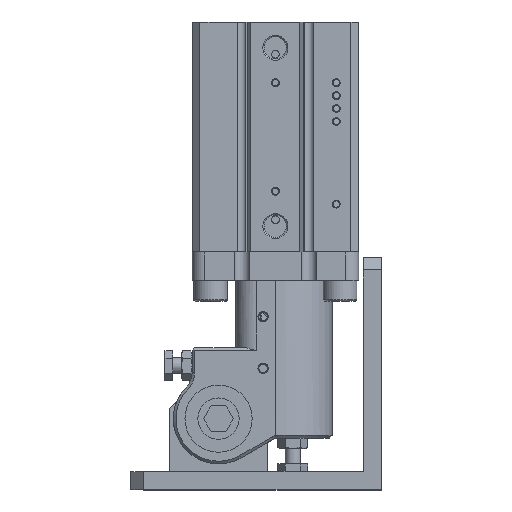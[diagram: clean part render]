
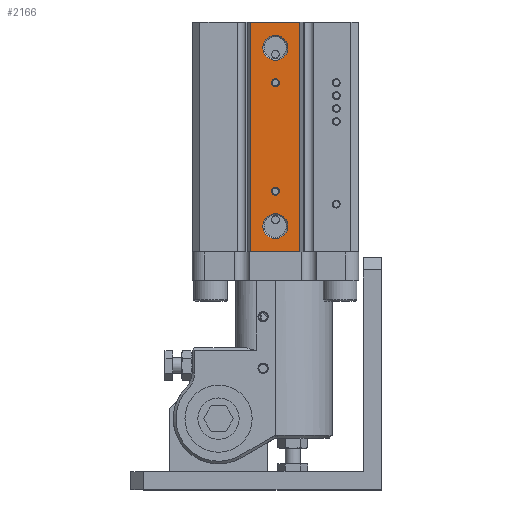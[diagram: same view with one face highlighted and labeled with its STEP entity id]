
A CAD part, top view. The second image highlights one B-rep face of the part: STEP entity #2166.
In plain terms, the highlighted planar face has unit normal (0, 0, 1).
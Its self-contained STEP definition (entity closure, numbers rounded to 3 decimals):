
#813=CIRCLE('',#11052,4.85);
#814=CIRCLE('',#11053,4.85);
#815=CIRCLE('',#11054,1.5);
#816=CIRCLE('',#11055,1.5);
#1332=FACE_BOUND('',#3656,.T.);
#1333=FACE_BOUND('',#3657,.T.);
#1334=FACE_BOUND('',#3658,.T.);
#1335=FACE_BOUND('',#3659,.T.);
#1336=FACE_BOUND('',#3660,.T.);
#2166=ADVANCED_FACE('',(#1332,#1333,#1334,#1335,#1336),#2773,.T.);
#2773=PLANE('',#11056);
#3656=EDGE_LOOP('',(#5476,#5477,#5478,#5479));
#3657=EDGE_LOOP('',(#5480));
#3658=EDGE_LOOP('',(#5481));
#3659=EDGE_LOOP('',(#5482));
#3660=EDGE_LOOP('',(#5483));
#5476=ORIENTED_EDGE('',*,*,#8618,.T.);
#5477=ORIENTED_EDGE('',*,*,#8573,.F.);
#5478=ORIENTED_EDGE('',*,*,#8619,.F.);
#5479=ORIENTED_EDGE('',*,*,#8466,.T.);
#5480=ORIENTED_EDGE('',*,*,#8620,.T.);
#5481=ORIENTED_EDGE('',*,*,#8621,.T.);
#5482=ORIENTED_EDGE('',*,*,#8622,.T.);
#5483=ORIENTED_EDGE('',*,*,#8623,.T.);
#7391=VERTEX_POINT('',#16223);
#7392=VERTEX_POINT('',#16225);
#7491=VERTEX_POINT('',#16437);
#7492=VERTEX_POINT('',#16439);
#7518=VERTEX_POINT('',#16532);
#7519=VERTEX_POINT('',#16534);
#7520=VERTEX_POINT('',#16536);
#7521=VERTEX_POINT('',#16538);
#8466=EDGE_CURVE('',#7392,#7391,#9603,.T.);
#8573=EDGE_CURVE('',#7491,#7492,#9703,.T.);
#8618=EDGE_CURVE('',#7391,#7492,#9737,.T.);
#8619=EDGE_CURVE('',#7392,#7491,#9738,.T.);
#8620=EDGE_CURVE('',#7518,#7518,#813,.T.);
#8621=EDGE_CURVE('',#7519,#7519,#814,.T.);
#8622=EDGE_CURVE('',#7520,#7520,#815,.T.);
#8623=EDGE_CURVE('',#7521,#7521,#816,.T.);
#9603=LINE('',#16224,#10259);
#9703=LINE('',#16438,#10359);
#9737=LINE('',#16528,#10393);
#9738=LINE('',#16530,#10394);
#10259=VECTOR('',#12726,1.);
#10359=VECTOR('',#12854,1.);
#10393=VECTOR('',#12948,1.);
#10394=VECTOR('',#12951,1.);
#11052=AXIS2_PLACEMENT_3D('',#16531,#12952,#12953);
#11053=AXIS2_PLACEMENT_3D('',#16533,#12954,#12955);
#11054=AXIS2_PLACEMENT_3D('',#16535,#12956,#12957);
#11055=AXIS2_PLACEMENT_3D('',#16537,#12958,#12959);
#11056=AXIS2_PLACEMENT_3D('',#16539,#12960,#12961);
#12726=DIRECTION('',(1.,0.,0.));
#12854=DIRECTION('',(1.,0.,0.));
#12948=DIRECTION('',(0.,1.,0.));
#12951=DIRECTION('',(0.,1.,0.));
#12952=DIRECTION('',(0.,0.,-1.));
#12953=DIRECTION('',(-1.,0.,0.));
#12954=DIRECTION('',(0.,0.,-1.));
#12955=DIRECTION('',(-1.,0.,0.));
#12956=DIRECTION('',(0.,0.,-1.));
#12957=DIRECTION('',(1.,0.,0.));
#12958=DIRECTION('',(0.,0.,-1.));
#12959=DIRECTION('',(-1.,0.,0.));
#12960=DIRECTION('',(0.,0.,1.));
#12961=DIRECTION('',(-1.,0.,0.));
#16223=CARTESIAN_POINT('',(41.75,0.,0.));
#16224=CARTESIAN_POINT('',(22.75,0.,0.));
#16225=CARTESIAN_POINT('',(22.75,0.,0.));
#16437=CARTESIAN_POINT('',(22.75,89.,0.));
#16438=CARTESIAN_POINT('',(22.75,89.,0.));
#16439=CARTESIAN_POINT('',(41.75,89.,0.));
#16528=CARTESIAN_POINT('',(41.75,0.,0.));
#16530=CARTESIAN_POINT('',(22.75,0.,0.));
#16531=CARTESIAN_POINT('',(32.25,10.,0.));
#16532=CARTESIAN_POINT('',(27.4,10.,0.));
#16533=CARTESIAN_POINT('',(32.25,79.,0.));
#16534=CARTESIAN_POINT('',(27.4,79.,0.));
#16535=CARTESIAN_POINT('',(32.25,23.5,0.));
#16536=CARTESIAN_POINT('',(33.75,23.5,0.));
#16537=CARTESIAN_POINT('',(32.25,65.5,0.));
#16538=CARTESIAN_POINT('',(30.75,65.5,0.));
#16539=CARTESIAN_POINT('',(22.75,0.,0.));
